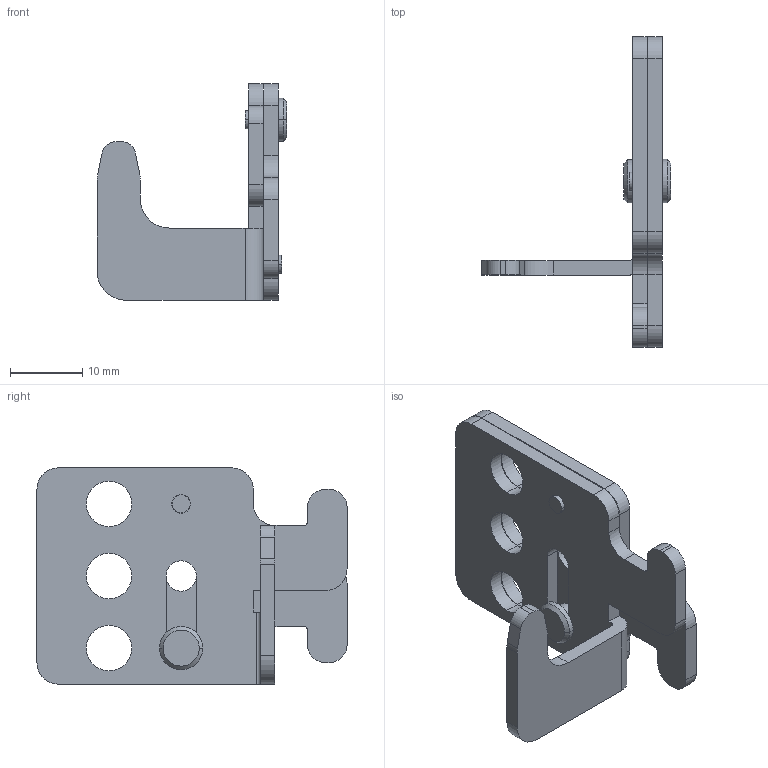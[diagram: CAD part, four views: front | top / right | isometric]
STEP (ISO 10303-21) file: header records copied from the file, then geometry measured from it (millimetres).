
FILE_DESCRIPTION((''),'2;1');
FILE_NAME('U2_PLD_ASSY_ASM','2018-06-04T',('HHI'),(''),'PRO/ENGINEER BY PARAMETRIC TECHNOLOGY CORPORATION, 2012453','PRO/ENGINEER BY PARAMETRIC TECHNOLOGY CORPORATION, 2012453','');
FILE_SCHEMA(('CONFIG_CONTROL_DESIGN'));
Length unit declared in the file: millimetre
Products named in the file (5): U2_PLD_ASSY_SKEL; U2_PLD_HANDLE_LOCK_PLATE; U8_HANDLE_LOCK_RIVETING_PIN; U2_PLD_HANDLE_HOLD_PLATE; U2_PLD_ASSY_ASM
Assembly tree (5 placements, depth 2):
  U2_PLD_ASSY_ASM
    U2_PLD_ASSY_SKEL
    U2_PLD_HANDLE_LOCK_PLATE
    U8_HANDLE_LOCK_RIVETING_PIN  x2
    U2_PLD_HANDLE_HOLD_PLATE
Bounding box: 26.3 x 43 x 30 mm (x, y, z)
Volume: 4257.7 mm3; surface area: 5474.7 mm2
Topology: 4 solids, 4 shells, 106 faces, 278 edges, 184 vertices
Faces by surface type: cylinder 58, plane 44, cone 4
Entity records: 3189 total; most frequent: DIRECTION 570, CARTESIAN_POINT 530, ORIENTED_EDGE 512, EDGE_CURVE 256, AXIS2_PLACEMENT_3D 210, VERTEX_POINT 170, VECTOR 150, LINE 150
